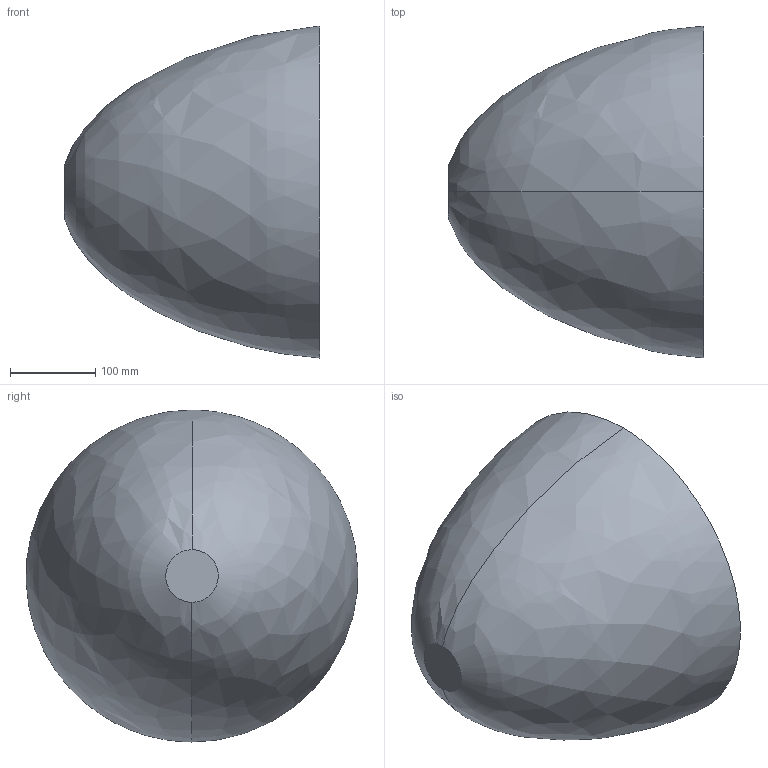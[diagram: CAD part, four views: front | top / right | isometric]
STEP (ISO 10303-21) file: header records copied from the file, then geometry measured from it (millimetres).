
FILE_DESCRIPTION(/* description */ (''),/* implementation_level */ '2;1');
FILE_NAME(/* name */ 'NTF_Arc_Sector_CameraPod_2023_10_02.stp',/* time_stamp */ '2023-10-02T14:29:43-04:00',/* author */ (''),/* organization */ (''),/* preprocessor_version */ 'ST-DEVELOPER v16.7',/* originating_system */ 'SIEMENS PLM Software NX 12.0',/* authorisation */ '');
FILE_SCHEMA (('AUTOMOTIVE_DESIGN { 1 0 10303 214 3 1 1 1 }'));
Length unit declared in the file: inch
Products named in the file (1): sbry3178F678wn5y
Bounding box: 298.86 x 388.43 x 388.72 mm (x, y, z)
Volume: 22094205.6 mm3; surface area: 431608.2 mm2
Topology: 1 solids, 1 shells, 4 faces, 6 edges, 4 vertices
Faces by surface type: bspline 4
Entity records: 146 total; most frequent: CARTESIAN_POINT 69, ORIENTED_EDGE 12, EDGE_CURVE 6, ADVANCED_FACE 4, FACE_OUTER_BOUND 4, EDGE_LOOP 4, VERTEX_POINT 4, PROPERTY_DEFINITION_REPRESENTATION 2
